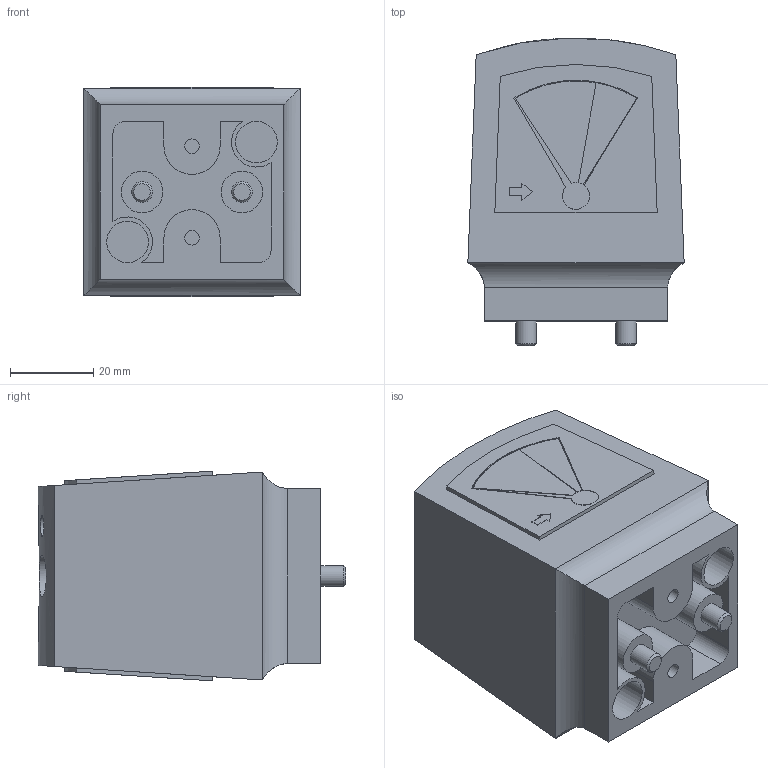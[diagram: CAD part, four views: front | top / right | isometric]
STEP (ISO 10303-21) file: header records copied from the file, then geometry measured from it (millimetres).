
FILE_DESCRIPTION((''),'2;1');
FILE_NAME('K:\ZEICHNG\webgrafik.intern\Air-Techniques Befestigungen und Behälter\step\DM 2.stp','2013-06-18T15:52:13',('RJanz'),(''),'Autodesk Inventor 2013','Autodesk Inventor 2013','');
FILE_SCHEMA(('CONFIG_CONTROL_DESIGN'));
Length unit declared in the file: millimetre
Products named in the file (1): 10008669
Bounding box: 52 x 73.96 x 50.44 mm (x, y, z)
Volume: 141014 mm3; surface area: 21939.7 mm2
Topology: 1 solids, 1 shells, 111 faces, 253 edges, 164 vertices
Faces by surface type: plane 73, cylinder 36, cone 2
Full cylindrical faces by diameter (mm): 3.5 x2, 5 x3, 10 x6
Entity records: 3264 total; most frequent: CARTESIAN_POINT 615, DIRECTION 528, ORIENTED_EDGE 480, EDGE_CURVE 240, AXIS2_PLACEMENT_3D 179, VECTOR 170, LINE 170, VERTEX_POINT 164
